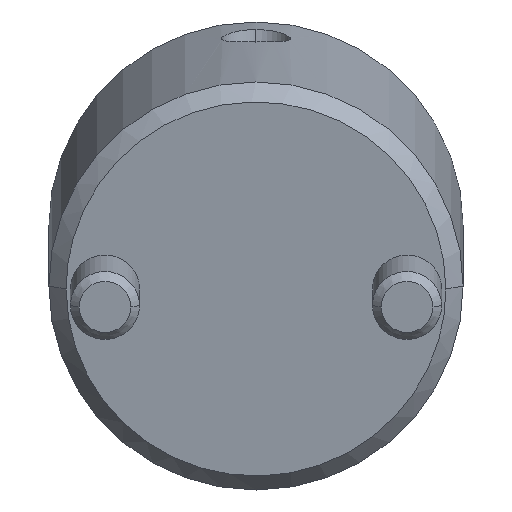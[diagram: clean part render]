
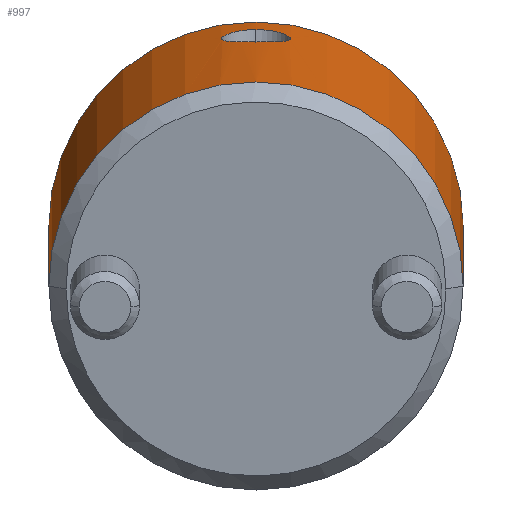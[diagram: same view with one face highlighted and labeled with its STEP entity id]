
A CAD part, front view. The second image highlights one B-rep face of the part: STEP entity #997.
In plain terms, the highlighted cylindrical face has radius 12 mm (diameter 24 mm), a partial arc.
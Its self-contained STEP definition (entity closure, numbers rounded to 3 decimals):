
#760=CARTESIAN_POINT('Vertex',(0.,12.,1.)) ;
#763=CARTESIAN_POINT('Axis2P3D Location',(0.,0.,1.)) ;
#767=CARTESIAN_POINT('Vertex',(0.,-12.,1.)) ;
#907=CARTESIAN_POINT('Axis2P3D Location',(0.,0.,-1.1)) ;
#912=CARTESIAN_POINT('Line Origine',(0.,12.,-1.1)) ;
#916=CARTESIAN_POINT('Vertex',(0.,12.,21.)) ;
#919=CARTESIAN_POINT('Axis2P3D Location',(0.,0.,21.)) ;
#923=CARTESIAN_POINT('Vertex',(0.,-12.,21.)) ;
#926=CARTESIAN_POINT('Line Origine',(0.,-12.,-1.1)) ;
#938=CARTESIAN_POINT('Control Point',(12.,0.,18.464)) ;
#939=CARTESIAN_POINT('Control Point',(12.,0.274,18.464)) ;
#940=CARTESIAN_POINT('Control Point',(11.992,0.543,18.416)) ;
#941=CARTESIAN_POINT('Control Point',(11.977,0.805,18.319)) ;
#942=CARTESIAN_POINT('Control Point',(11.946,1.165,18.108)) ;
#943=CARTESIAN_POINT('Control Point',(11.912,1.459,17.817)) ;
#944=CARTESIAN_POINT('Control Point',(11.9,1.55,17.71)) ;
#945=CARTESIAN_POINT('Control Point',(11.866,1.797,17.365)) ;
#946=CARTESIAN_POINT('Control Point',(11.841,1.952,16.967)) ;
#947=CARTESIAN_POINT('Control Point',(11.83,2.01,16.685)) ;
#948=CARTESIAN_POINT('Control Point',(11.828,2.026,16.191)) ;
#949=CARTESIAN_POINT('Control Point',(11.849,1.898,15.716)) ;
#950=CARTESIAN_POINT('Control Point',(11.862,1.818,15.525)) ;
#951=CARTESIAN_POINT('Control Point',(11.888,1.644,15.224)) ;
#952=CARTESIAN_POINT('Control Point',(11.917,1.411,14.969)) ;
#953=CARTESIAN_POINT('Control Point',(11.929,1.309,14.876)) ;
#954=CARTESIAN_POINT('Control Point',(11.959,1.018,14.652)) ;
#955=CARTESIAN_POINT('Control Point',(11.984,0.68,14.499)) ;
#956=CARTESIAN_POINT('Control Point',(11.994,0.458,14.434)) ;
#957=CARTESIAN_POINT('Control Point',(12.,0.231,14.402)) ;
#958=CARTESIAN_POINT('Control Point',(12.,0.,14.402)) ;
#959=CARTESIAN_POINT('Vertex',(12.,0.,18.464)) ;
#961=CARTESIAN_POINT('Vertex',(12.,0.,14.402)) ;
#965=CARTESIAN_POINT('Control Point',(12.,0.,14.402)) ;
#966=CARTESIAN_POINT('Control Point',(12.,-0.139,14.402)) ;
#967=CARTESIAN_POINT('Control Point',(11.998,-0.277,14.414)) ;
#968=CARTESIAN_POINT('Control Point',(11.994,-0.414,14.438)) ;
#969=CARTESIAN_POINT('Control Point',(11.982,-0.682,14.508)) ;
#970=CARTESIAN_POINT('Control Point',(11.964,-0.935,14.623)) ;
#971=CARTESIAN_POINT('Control Point',(11.954,-1.057,14.692)) ;
#972=CARTESIAN_POINT('Control Point',(11.932,-1.285,14.849)) ;
#973=CARTESIAN_POINT('Control Point',(11.909,-1.482,15.042)) ;
#974=CARTESIAN_POINT('Control Point',(11.897,-1.571,15.147)) ;
#975=CARTESIAN_POINT('Control Point',(11.864,-1.813,15.485)) ;
#976=CARTESIAN_POINT('Control Point',(11.839,-1.961,15.876)) ;
#977=CARTESIAN_POINT('Control Point',(11.83,-2.014,16.155)) ;
#978=CARTESIAN_POINT('Control Point',(11.829,-2.021,16.578)) ;
#979=CARTESIAN_POINT('Control Point',(11.845,-1.923,16.989)) ;
#980=CARTESIAN_POINT('Control Point',(11.852,-1.88,17.123)) ;
#981=CARTESIAN_POINT('Control Point',(11.869,-1.769,17.383)) ;
#982=CARTESIAN_POINT('Control Point',(11.891,-1.617,17.622)) ;
#983=CARTESIAN_POINT('Control Point',(11.903,-1.53,17.735)) ;
#984=CARTESIAN_POINT('Control Point',(11.932,-1.296,17.993)) ;
#985=CARTESIAN_POINT('Control Point',(11.959,-1.012,18.196)) ;
#986=CARTESIAN_POINT('Control Point',(11.974,-0.831,18.294)) ;
#987=CARTESIAN_POINT('Control Point',(11.99,-0.553,18.399)) ;
#988=CARTESIAN_POINT('Control Point',(11.998,-0.264,18.449)) ;
#989=CARTESIAN_POINT('Control Point',(11.999,-0.176,18.459)) ;
#990=CARTESIAN_POINT('Control Point',(12.,-0.088,18.464)) ;
#991=CARTESIAN_POINT('Control Point',(12.,0.,18.464)) ;
#764=DIRECTION('Axis2P3D Direction',(0.,0.,1.)) ;
#908=DIRECTION('Axis2P3D Direction',(0.,-0.,1.)) ;
#909=DIRECTION('Axis2P3D XDirection',(0.,-1.,0.)) ;
#913=DIRECTION('Vector Direction',(0.,0.,1.)) ;
#920=DIRECTION('Axis2P3D Direction',(0.,-0.,1.)) ;
#927=DIRECTION('Vector Direction',(0.,0.,1.)) ;
#765=AXIS2_PLACEMENT_3D('Circle Axis2P3D',#763,#764,$) ;
#910=AXIS2_PLACEMENT_3D('Cylinder Axis2P3D',#907,#908,#909) ;
#921=AXIS2_PLACEMENT_3D('Circle Axis2P3D',#919,#920,$) ;
#932=ORIENTED_EDGE('',*,*,#918,.F.) ;
#933=ORIENTED_EDGE('',*,*,#925,.T.) ;
#934=ORIENTED_EDGE('',*,*,#930,.T.) ;
#935=ORIENTED_EDGE('',*,*,#769,.F.) ;
#994=ORIENTED_EDGE('',*,*,#963,.T.) ;
#995=ORIENTED_EDGE('',*,*,#992,.T.) ;
#996=FACE_BOUND('',#993,.T.) ;
#914=VECTOR('Line Direction',#913,1.) ;
#928=VECTOR('Line Direction',#927,1.) ;
#997=ADVANCED_FACE('MANIFOLD_SOLID_BREP #1094',(#936,#996),#911,.T.) ;
#937=B_SPLINE_CURVE_WITH_KNOTS('',5,(#938,#939,#940,#941,#942,#943,#944,#945,#946,#947,#948,#949,#950,#951,#952,#953,#954,#955,#956,#957,#958),.UNSPECIFIED.,.F.,.U.,(6,3,3,3,3,3,6),(0.,1.934,2.932,4.914,6.38,7.357,8.982),.UNSPECIFIED.) ;
#964=B_SPLINE_CURVE_WITH_KNOTS('',5,(#965,#966,#967,#968,#969,#970,#971,#972,#973,#974,#975,#976,#977,#978,#979,#980,#981,#982,#983,#984,#985,#986,#987,#988,#989,#990,#991),.UNSPECIFIED.,.F.,.U.,(6,3,3,3,3,3,3,3,6),(0.,0.981,1.96,2.938,4.898,5.895,6.892,8.359,8.982),.UNSPECIFIED.) ;
#766=CIRCLE('generated circle',#765,12.) ;
#922=CIRCLE('generated circle',#921,12.) ;
#911=CYLINDRICAL_SURFACE('generated cylinder',#910,12.) ;
#769=EDGE_CURVE('',#761,#768,#766,.F.) ;
#918=EDGE_CURVE('',#917,#761,#915,.F.) ;
#925=EDGE_CURVE('',#917,#924,#922,.F.) ;
#930=EDGE_CURVE('',#924,#768,#929,.F.) ;
#963=EDGE_CURVE('',#960,#962,#937,.T.) ;
#992=EDGE_CURVE('',#962,#960,#964,.T.) ;
#931=EDGE_LOOP('',(#932,#933,#934,#935)) ;
#993=EDGE_LOOP('',(#994,#995)) ;
#936=FACE_OUTER_BOUND('',#931,.T.) ;
#915=LINE('Line',#912,#914) ;
#929=LINE('Line',#926,#928) ;
#761=VERTEX_POINT('',#760) ;
#768=VERTEX_POINT('',#767) ;
#917=VERTEX_POINT('',#916) ;
#924=VERTEX_POINT('',#923) ;
#960=VERTEX_POINT('',#959) ;
#962=VERTEX_POINT('',#961) ;
